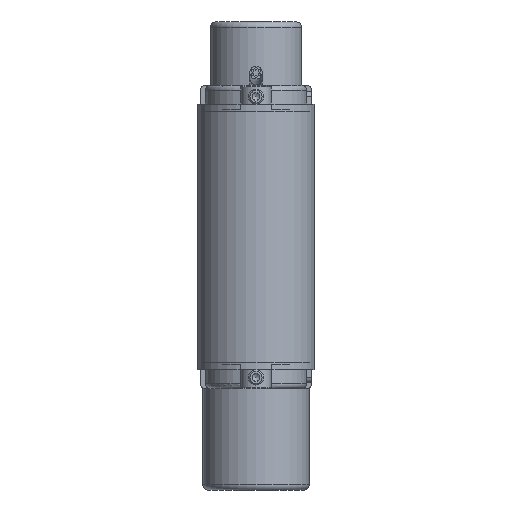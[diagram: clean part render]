
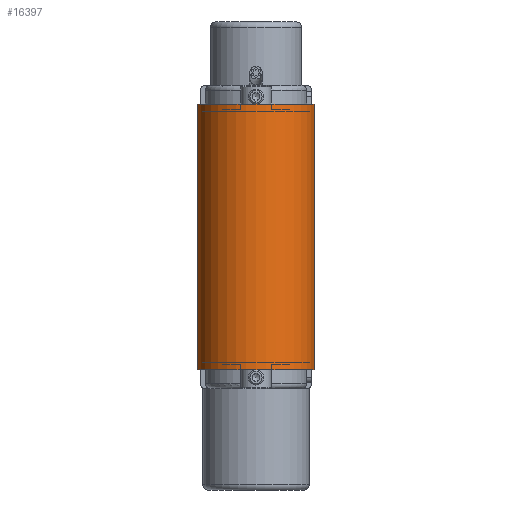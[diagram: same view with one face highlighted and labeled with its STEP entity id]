
A CAD part, front view. The second image highlights one B-rep face of the part: STEP entity #16397.
In plain terms, the highlighted cylindrical face has radius 23.3 mm (diameter 46.6 mm), a partial arc.
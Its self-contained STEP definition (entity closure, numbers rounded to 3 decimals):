
#1188=FACE_OUTER_BOUND('',#2095,.T.);
#2095=EDGE_LOOP('',(#11076,#11077,#11078,#11079));
#3130=LINE('',#24416,#4394);
#3131=LINE('',#24420,#4395);
#4394=VECTOR('',#19637,10.);
#4395=VECTOR('',#19642,10.);
#5605=CIRCLE('',#17469,23.3);
#5608=CIRCLE('',#17475,23.3);
#6574=VERTEX_POINT('',#24399);
#6575=VERTEX_POINT('',#24400);
#6580=VERTEX_POINT('',#24414);
#6581=VERTEX_POINT('',#24418);
#8317=EDGE_CURVE('',#6574,#6575,#5605,.T.);
#8325=EDGE_CURVE('',#6580,#6575,#3130,.T.);
#8326=EDGE_CURVE('',#6580,#6581,#5608,.T.);
#8327=EDGE_CURVE('',#6574,#6581,#3131,.T.);
#11076=ORIENTED_EDGE('',*,*,#8326,.T.);
#11077=ORIENTED_EDGE('',*,*,#8327,.F.);
#11078=ORIENTED_EDGE('',*,*,#8317,.T.);
#11079=ORIENTED_EDGE('',*,*,#8325,.F.);
#15130=CYLINDRICAL_SURFACE('',#17474,23.3);
#16397=ADVANCED_FACE('',(#1188),#15130,.T.);
#17469=AXIS2_PLACEMENT_3D('',#24401,#19622,#19623);
#17474=AXIS2_PLACEMENT_3D('',#24417,#19638,#19639);
#17475=AXIS2_PLACEMENT_3D('',#24419,#19640,#19641);
#19622=DIRECTION('center_axis',(0.,0.,
-1.));
#19623=DIRECTION('ref_axis',(-1.,0.,0.));
#19637=DIRECTION('',(0.,0.,1.));
#19638=DIRECTION('center_axis',(0.,0.,
-1.));
#19639=DIRECTION('ref_axis',(-1.,0.,0.));
#19640=DIRECTION('center_axis',(0.,0.,
1.));
#19641=DIRECTION('ref_axis',(-1.,0.,0.));
#19642=DIRECTION('',(0.,0.,-1.));
#24399=CARTESIAN_POINT('',(23.3,-870.,52.5));
#24400=CARTESIAN_POINT('',(-23.3,-870.,52.5));
#24401=CARTESIAN_POINT('Origin',(0.,-870.,
52.5));
#24414=CARTESIAN_POINT('',(-23.3,-870.,-52.5));
#24416=CARTESIAN_POINT('',(-23.3,-870.,0.));
#24417=CARTESIAN_POINT('Origin',(0.,-870.,
0.));
#24418=CARTESIAN_POINT('',(23.3,-870.,-52.5));
#24419=CARTESIAN_POINT('Origin',(0.,-870.,
-52.5));
#24420=CARTESIAN_POINT('',(23.3,-870.,0.));
